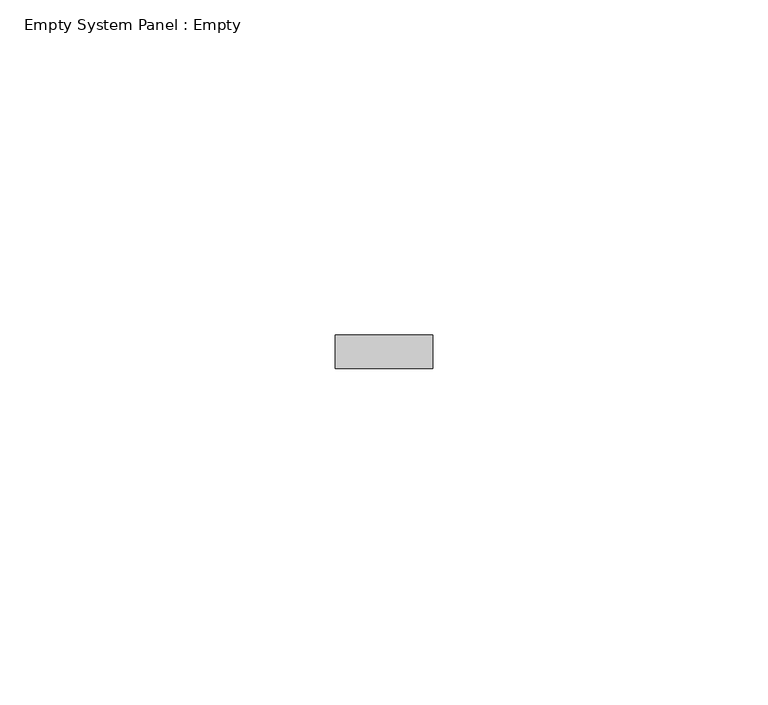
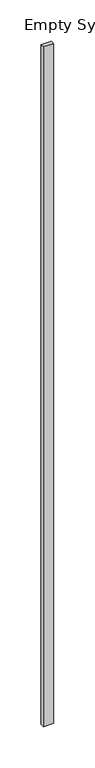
"""IFC4 building model written with IfcOpenShell, lengths in millimetres: plate geometry, Empty System Panel : Empty."""

import ifcopenshell
import ifcopenshell.guid

model = None  # the IFC model being written
_history = None  # IfcOwnerHistory: only IFC2X3 demands one
_inside = {}  # id of a spatial element -> (the spatial element, [elements in it])
_under = {}  # id of a project, library or spatial element -> (it, [spatial elements below it])
_declared = {}  # id of a project -> (the project, [libraries it declares])
_typed = {}  # id of a type object -> (the type object, [elements of that type])
_made_of = {}  # id of a material, layer set ... -> (it, [elements and type objects made of it])


def new_model(schema):
    """Start an empty IFC model of exactly this schema.

    Asked for "IFC4X3", IfcOpenShell would pick the latest addendum, in which some entities
    have other attributes; the version numbers below select the first issue.
    IFC2X3 requires an IfcOwnerHistory on every rooted entity: one is made here for all.
    """
    global model, _history
    if schema == "IFC4X3":
        model = ifcopenshell.file(schema_version=(4, 3, 0, 0))
    else:
        model = ifcopenshell.file(schema=schema)
    _inside.clear()
    _under.clear()
    _declared.clear()
    _typed.clear()
    _made_of.clear()
    _history = None
    if model.schema == "IFC2X3":
        org = make("IfcOrganization", Name="unknown")
        user = make(
            "IfcPersonAndOrganization",
            ThePerson=make("IfcPerson", FamilyName="unknown"),
            TheOrganization=org,
        )
        app = make(
            "IfcApplication",
            ApplicationDeveloper=org,
            Version="unknown",
            ApplicationFullName="unknown",
            ApplicationIdentifier="unknown",
        )
        _history = make(
            "IfcOwnerHistory",
            OwningUser=user,
            OwningApplication=app,
            ChangeAction="ADDED",
            CreationDate=0,
        )
    return model


def make(cls, **values):
    """One entity of the class cls with the attributes given. An attribute that is None is left unset."""
    return model.create_entity(
        cls, **{name: value for name, value in values.items() if value is not None}
    )


def rooted(cls, **values):
    """An entity with a GlobalId (a new one), such as an element, a storey or a relation."""
    return make(cls, GlobalId=ifcopenshell.guid.new(), OwnerHistory=_history, **values)


def si_unit(unit_type, name, prefix=None):
    """IfcSIUnit, for example si_unit("LENGTHUNIT", "METRE", prefix="MILLI")."""
    return make("IfcSIUnit", UnitType=unit_type, Prefix=prefix, Name=name)


def assignment(units):
    """IfcUnitAssignment: the units of a project."""
    return None if units is None else make("IfcUnitAssignment", Units=units)


def point(xyz):
    """IfcCartesianPoint."""
    return None if xyz is None else make("IfcCartesianPoint", Coordinates=xyz)


def direction(xyz):
    """IfcDirection."""
    return None if xyz is None else make("IfcDirection", DirectionRatios=xyz)


def frame(location, z_axis=None, x_axis=None):
    """IfcAxis2Placement3D, a coordinate frame: its origin and axes. An axis left out is left unset."""
    return make(
        "IfcAxis2Placement3D",
        Location=point(location),
        Axis=direction(z_axis),
        RefDirection=direction(x_axis),
    )


def origin():
    """The frame at (0, 0, 0) with its axes left unset."""
    return frame((0.0, 0.0, 0.0))


def origin_with_axes():
    """The frame at (0, 0, 0) with the z axis (0, 0, 1) and the x axis (1, 0, 0) written out."""
    return frame((0.0, 0.0, 0.0), z_axis=(0.0, 0.0, 1.0), x_axis=(1.0, 0.0, 0.0))


def place(relative_to, where):
    """IfcLocalPlacement: puts the frame where relative to a parent placement (None: the world)."""
    return make(
        "IfcLocalPlacement", PlacementRelTo=relative_to, RelativePlacement=where
    )


def context(
    kind, dimensions, precision=None, world=None, true_north=None, identifier=None
):
    """IfcGeometricRepresentationContext, for example the 3D "Model" context."""
    return make(
        "IfcGeometricRepresentationContext",
        ContextIdentifier=identifier,
        ContextType=kind,
        CoordinateSpaceDimension=dimensions,
        Precision=precision,
        WorldCoordinateSystem=world,
        TrueNorth=true_north,
    )


def project(units=None, contexts=None):
    """IfcProject with its units and contexts."""
    return rooted(
        "IfcProject",
        Name="project",
        RepresentationContexts=contexts,
        UnitsInContext=assignment(units),
    )


def spatial(cls, under=None, at=None, **own):
    """A site, building, storey or space (cls), placed at a placement, below another one or the project."""
    s = rooted(cls, ObjectPlacement=at, **own)
    if under is not None:
        _under.setdefault(under.id(), (under, []))[1].append(s)
    return s


def polyline(points):
    """IfcPolyline through the points."""
    return make("IfcPolyline", Points=[point(p) for p in points])


def outline(outer, holes=None, kind="AREA"):
    """IfcArbitraryClosedProfileDef: a profile drawn as a closed curve; with holes, ...WithVoids."""
    if holes is None:
        return make("IfcArbitraryClosedProfileDef", ProfileType=kind, OuterCurve=outer)
    return make(
        "IfcArbitraryProfileDefWithVoids",
        ProfileType=kind,
        OuterCurve=outer,
        InnerCurves=holes,
    )


def extrude(swept, where, along, depth):
    """IfcExtrudedAreaSolid: the profile swept, set in the frame where, extruded along a direction by depth."""
    return make(
        "IfcExtrudedAreaSolid",
        SweptArea=swept,
        Position=where,
        ExtrudedDirection=direction(along),
        Depth=depth,
    )


def shape(context_of_items, identifier, shape_type, items):
    """IfcShapeRepresentation: the items that make up one representation, for example the "Body"."""
    return make(
        "IfcShapeRepresentation",
        ContextOfItems=context_of_items,
        RepresentationIdentifier=identifier,
        RepresentationType=shape_type,
        Items=items,
    )


def source(mapping_origin, context_of_items, identifier, shape_type, items):
    """IfcRepresentationMap: a shape defined once, which mapped items show again and again."""
    return make(
        "IfcRepresentationMap",
        MappingOrigin=mapping_origin,
        MappedRepresentation=shape(context_of_items, identifier, shape_type, items),
    )


def transform(
    local_origin,
    x_axis=None,
    y_axis=None,
    z_axis=None,
    scale=None,
    scale2=None,
    scale3=None,
    uniform=True,
):
    """IfcCartesianTransformationOperator3D, or its non-uniform kind. x_axis, y_axis, z_axis: its Axis1, 2, 3."""
    if uniform:
        return make(
            "IfcCartesianTransformationOperator3D",
            Axis1=direction(x_axis),
            Axis2=direction(y_axis),
            LocalOrigin=point(local_origin),
            Scale=scale,
            Axis3=direction(z_axis),
        )
    return make(
        "IfcCartesianTransformationOperator3DnonUniform",
        Axis1=direction(x_axis),
        Axis2=direction(y_axis),
        LocalOrigin=point(local_origin),
        Scale=scale,
        Axis3=direction(z_axis),
        Scale2=scale2,
        Scale3=scale3,
    )


def mapped(mapping_source, mapping_target):
    """IfcMappedItem: shows the shape of a source again, moved by a transform."""
    return make(
        "IfcMappedItem", MappingSource=mapping_source, MappingTarget=mapping_target
    )


def made_of(thing, what):
    """Note that an element or type object is made of a material, layer set ...; save() writes the relation."""
    if what is not None:
        _made_of.setdefault(what.id(), (what, []))[1].append(thing)
    return thing


def element(
    cls,
    number,
    at=None,
    inside=None,
    cuts=None,
    type_object=None,
    material=None,
    context=None,
    identifier="Body",
    shape_type=None,
    held_by="IfcProductDefinitionShape",
    body=None,
    shapes=None,
    **own,
):
    """One element of the class cls, such as IfcWall. Its Tag is "e" and its number.

    at: its placement. inside: the storey or other place that contains it. cuts: it is an
    opening in that element (IfcRelVoidsElement). A single representation is given by context,
    identifier, shape_type and body (its items); several are given by shapes. held_by: the class
    of the entity that holds the representations. save() writes the other relations.
    """
    e = rooted(cls, Tag="e%d" % number, ObjectPlacement=at, **own)
    if body is not None:
        shapes = [shape(context, identifier, shape_type, body)]
    if shapes is not None:
        e.Representation = make(held_by, Representations=shapes)
    if inside is not None:
        _inside.setdefault(inside.id(), (inside, []))[1].append(e)
    if cuts is not None:
        rooted(
            "IfcRelVoidsElement", RelatingBuildingElement=cuts, RelatedOpeningElement=e
        )
    if type_object is not None:
        _typed.setdefault(type_object.id(), (type_object, []))[1].append(e)
    return made_of(e, material)


def aggregate(whole, parts):
    """IfcRelAggregates: a whole, such as a stair, and the parts it consists of."""
    return rooted("IfcRelAggregates", RelatingObject=whole, RelatedObjects=parts)


def save(model, path):
    """Write the relations noted so far, then the file.

    IfcRelAggregates (storeys below a building ...), IfcRelContainedInSpatialStructure (elements
    in a storey), IfcRelDefinesByType, IfcRelAssociatesMaterial and IfcRelDeclares: one each for
    every whole, place, type object, material and project.
    """
    for whole, parts in _under.values():
        aggregate(whole, parts)
    for where, things in _inside.values():
        rooted(
            "IfcRelContainedInSpatialStructure",
            RelatedElements=things,
            RelatingStructure=where,
        )
    for kind, things in _typed.values():
        rooted("IfcRelDefinesByType", RelatedObjects=things, RelatingType=kind)
    for what, things in _made_of.values():
        rooted("IfcRelAssociatesMaterial", RelatedObjects=things, RelatingMaterial=what)
    for by, libraries in _declared.values():
        rooted("IfcRelDeclares", RelatingContext=by, RelatedDefinitions=libraries)
    model.write(path)


def empty_system_panel_empty_e75d21e2(model_context):
    return source(origin(), model_context, "Body", "SweptSolid", [
        extrude(outline(polyline([(7.2499998, -102.5), (-7.2499998, -102.5), (-7.2499998, -97.5), (7.2499998, -97.5), (7.2499998, -102.5)])), origin_with_axes(), (0.0, 0.0, 1.0), 1000.0),
    ])


if __name__ == "__main__":
    model = new_model("IFC4")
    model_context = context("Model", 3, world=origin())
    ifc_project = project(units=[si_unit("LENGTHUNIT", "METRE", prefix="MILLI")], contexts=[model_context])
    site = spatial("IfcSite", under=ifc_project)
    building = spatial("IfcBuilding", under=site)
    placement = place(None, origin())
    empty_system_panel_empty_shape = empty_system_panel_empty_e75d21e2(model_context)
    element("IfcPlate", 1, ObjectType="Empty System Panel : Empty", at=placement, inside=building, context=model_context, shape_type="MappedRepresentation", body=[
        mapped(empty_system_panel_empty_shape, transform((0.0, 0.0, 0.0), x_axis=(1.0, 0.0, 0.0), y_axis=(0.0, 1.0, 0.0), z_axis=(0.0, 0.0, 1.0))),
    ])
    save(model, "model.ifc")
